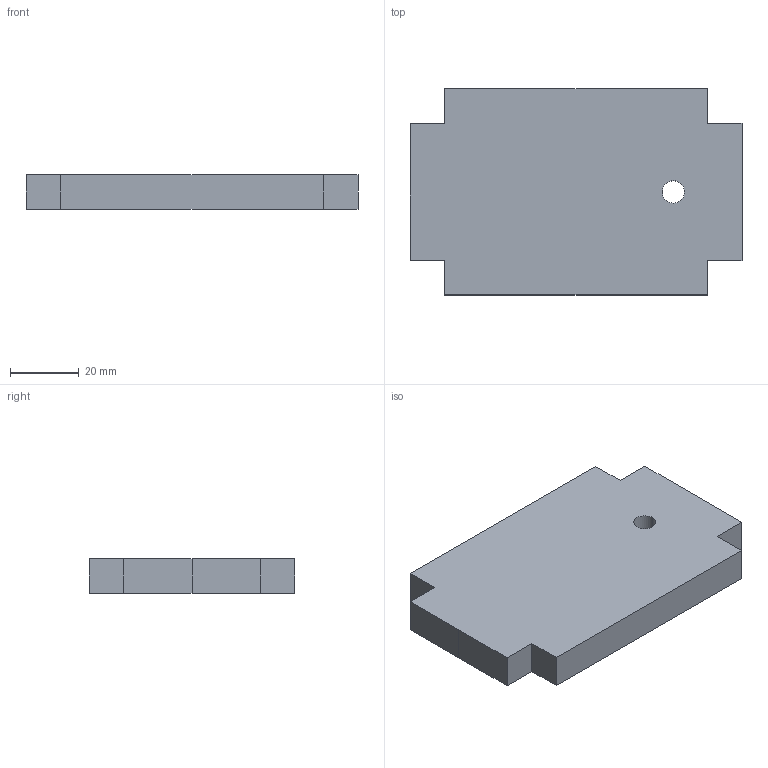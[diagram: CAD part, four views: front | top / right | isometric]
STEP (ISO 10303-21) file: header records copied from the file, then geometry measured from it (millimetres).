
FILE_DESCRIPTION(('CATIA V5 STEP Exchange'),'2;1');
FILE_NAME('C:\Users\gener\Documents\Lijadora Javitxu corte laser\tapa regulador polea.stp','2022-08-29T05:36:45+00:00',('none'),('none'),'CATIA Version 5 Release 20 GA (IN-10)','CATIA V5 STEP AP203','none');
FILE_SCHEMA(('CONFIG_CONTROL_DESIGN'));
Length unit declared in the file: millimetre
Products named in the file (1): tapa regulador polea
Bounding box: 96.78 x 60.04 x 10 mm (x, y, z)
Volume: 53685.4 mm3; surface area: 14077.7 mm2
Topology: 1 solids, 1 shells, 18 faces, 48 edges, 32 vertices
Faces by surface type: plane 16, cylinder 2
Entity records: 563 total; most frequent: ORIENTED_EDGE 96, CARTESIAN_POINT 92, DIRECTION 70, EDGE_CURVE 48, VECTOR 44, LINE 44, VERTEX_POINT 32, EDGE_LOOP 20
